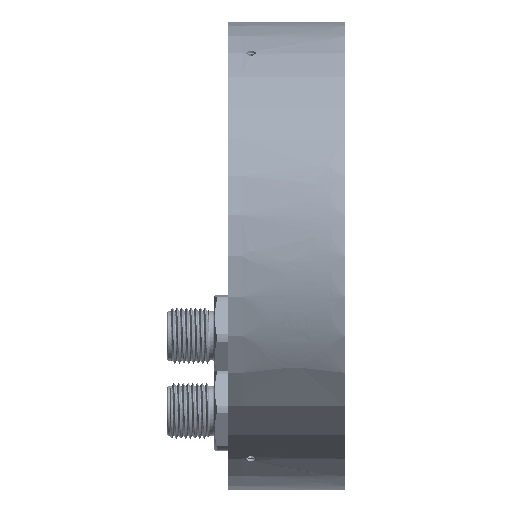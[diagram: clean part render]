
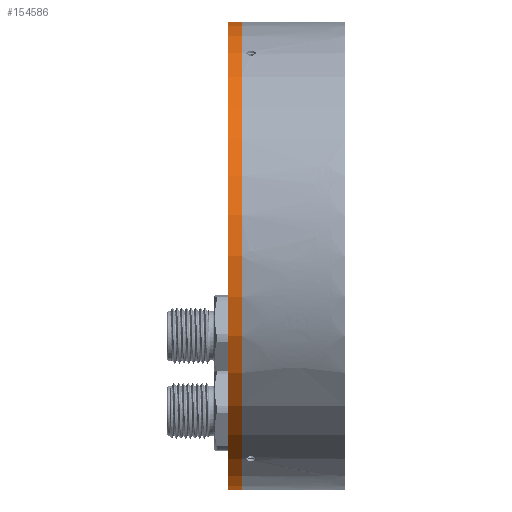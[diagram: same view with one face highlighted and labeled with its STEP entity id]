
A CAD part, front view. The second image highlights one B-rep face of the part: STEP entity #154586.
In plain terms, the highlighted cylindrical face has radius 50 mm (diameter 100 mm), a partial arc.
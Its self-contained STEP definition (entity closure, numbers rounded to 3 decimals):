
#6661 = AXIS2_PLACEMENT_3D ( 'NONE', #202736, #88614, #249236 ) ;
#10100 = ORIENTED_EDGE ( 'NONE', *, *, #251240, .F. ) ;
#11524 = LINE ( 'NONE', #106112, #210542 ) ;
#15149 = CARTESIAN_POINT ( 'NONE',  ( 0., 0., 50. ) ) ;
#30487 = CARTESIAN_POINT ( 'NONE',  ( 6., 0., 0. ) ) ;
#32403 = VERTEX_POINT ( 'NONE', #253778 ) ;
#36031 = VERTEX_POINT ( 'NONE', #104197 ) ;
#57893 = DIRECTION ( 'NONE',  ( 0., 0., 1. ) ) ;
#72043 = CARTESIAN_POINT ( 'NONE',  ( 6., 0., 50. ) ) ;
#78749 = CIRCLE ( 'NONE', #6661, 50. ) ;
#84931 = DIRECTION ( 'NONE',  ( -1., 0., 0. ) ) ;
#88614 = DIRECTION ( 'NONE',  ( -1., 0., 0. ) ) ;
#92005 = AXIS2_PLACEMENT_3D ( 'NONE', #286230, #84931, #57893 ) ;
#99296 = EDGE_CURVE ( 'NONE', #36031, #277256, #221470, .T. ) ;
#104197 = CARTESIAN_POINT ( 'NONE',  ( 0., 0., -50. ) ) ;
#106112 = CARTESIAN_POINT ( 'NONE',  ( 6., 0., -50. ) ) ;
#107745 = ORIENTED_EDGE ( 'NONE', *, *, #270810, .T. ) ;
#122092 = DIRECTION ( 'NONE',  ( -1., 0., 0. ) ) ;
#140463 = ORIENTED_EDGE ( 'NONE', *, *, #213791, .F. ) ;
#141907 = EDGE_LOOP ( 'NONE', ( #10100, #291898, #107745, #140463 ) ) ;
#147600 = FACE_OUTER_BOUND ( 'NONE', #141907, .T. ) ;
#154586 = ADVANCED_FACE ( 'NONE', ( #147600 ), #168660, .T. ) ;
#154644 = VERTEX_POINT ( 'NONE', #215151 ) ;
#168660 = CYLINDRICAL_SURFACE ( 'NONE', #280036, 50. ) ;
#198727 = VECTOR ( 'NONE', #205758, 1000. ) ;
#202736 = CARTESIAN_POINT ( 'NONE',  ( -3., 0., 0. ) ) ;
#205758 = DIRECTION ( 'NONE',  ( -1., 0., 0. ) ) ;
#210542 = VECTOR ( 'NONE', #290832, 1000. ) ;
#213673 = DIRECTION ( 'NONE',  ( 0., 0., 1. ) ) ;
#213791 = EDGE_CURVE ( 'NONE', #32403, #154644, #78749, .T. ) ;
#215151 = CARTESIAN_POINT ( 'NONE',  ( -3., 0., 50. ) ) ;
#221470 = CIRCLE ( 'NONE', #92005, 50. ) ;
#228270 = LINE ( 'NONE', #72043, #198727 ) ;
#249236 = DIRECTION ( 'NONE',  ( 0., 0., 1. ) ) ;
#251240 = EDGE_CURVE ( 'NONE', #36031, #32403, #11524, .T. ) ;
#253778 = CARTESIAN_POINT ( 'NONE',  ( -3., 0., -50. ) ) ;
#270810 = EDGE_CURVE ( 'NONE', #277256, #154644, #228270, .T. ) ;
#277256 = VERTEX_POINT ( 'NONE', #15149 ) ;
#280036 = AXIS2_PLACEMENT_3D ( 'NONE', #30487, #122092, #213673 ) ;
#286230 = CARTESIAN_POINT ( 'NONE',  ( 0., 0., 0. ) ) ;
#290832 = DIRECTION ( 'NONE',  ( -1., 0., 0. ) ) ;
#291898 = ORIENTED_EDGE ( 'NONE', *, *, #99296, .T. ) ;
